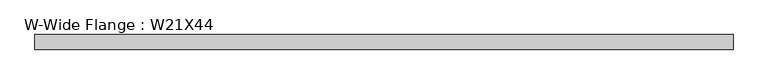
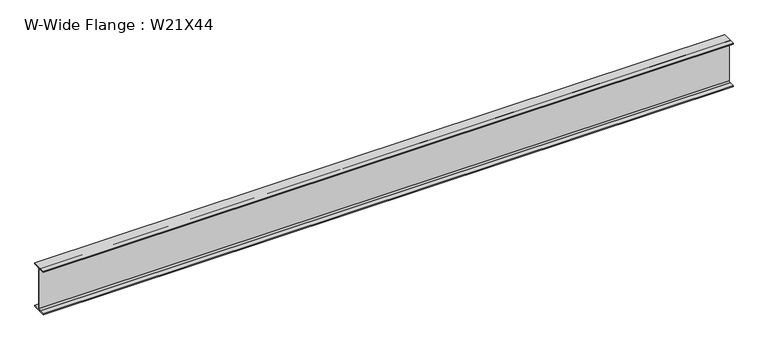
"""IFC4 building model written with IfcOpenShell, lengths in millimetres: beam geometry, W-Wide Flange : W21X44."""

from ifc_helpers import new_model, si_unit, point, frame, frame_2d, origin, place, context, project, spatial, polyline, circle_curve, trimmed, segment, composite_curve, outline, extrude, source, transform, mapped, element, save


def w_wide_flange_w21x44_bc81a974(model_context):
    return source(origin(), model_context, "Body", "SweptSolid", [
        extrude(outline(composite_curve([segment(polyline([(82.55, -251.46), (82.55, -262.89), (-82.55, -262.89), (-82.55, -251.46), (-21.59, -251.46)]), True, "CONTINUOUS"), segment(trimmed(circle_curve(frame_2d((-21.59, -234.315)), 17.145), [point((-21.59, -251.46))], [point((-4.445, -234.315))], True, "CARTESIAN"), True, "CONTINUOUS"), segment(polyline([(-4.445, -234.315), (-4.445, 234.315)]), True, "CONTINUOUS"), segment(trimmed(circle_curve(frame_2d((-21.59, 234.315)), 17.145), [point((-4.445, 234.315))], [point((-21.59, 251.46))], True, "CARTESIAN"), True, "CONTINUOUS"), segment(polyline([(-21.59, 251.46), (-82.55, 251.46), (-82.55, 262.89), (82.55, 262.89), (82.55, 251.46), (21.59, 251.46)]), True, "CONTINUOUS"), segment(trimmed(circle_curve(frame_2d((21.59, 234.315)), 17.145), [point((21.59, 251.46))], [point((4.445, 234.315))], True, "CARTESIAN"), True, "CONTINUOUS"), segment(polyline([(4.445, 234.315), (4.445, -234.315)]), True, "CONTINUOUS"), segment(trimmed(circle_curve(frame_2d((21.59, -234.315)), 17.145), [point((4.445, -234.315))], [point((21.59, -251.46))], True, "CARTESIAN"), True, "CONTINUOUS"), segment(polyline([(21.59, -251.46), (82.55, -251.46)]), True, "CONTINUOUS")], self_intersect=False)), frame((-3905.0724956, 0.0, 0.0), z_axis=(1.0, 0.0, 0.0), x_axis=(0.0, 1.0, 0.0)), (0.0, 0.0, 1.0), 7870.7248974),
    ])


if __name__ == "__main__":
    model = new_model("IFC4")
    model_context = context("Model", 3, world=origin())
    ifc_project = project(units=[si_unit("LENGTHUNIT", "METRE", prefix="MILLI")], contexts=[model_context])
    site = spatial("IfcSite", under=ifc_project)
    building = spatial("IfcBuilding", under=site)
    placement = place(None, origin())
    w_wide_flange_w21x44_shape = w_wide_flange_w21x44_bc81a974(model_context)
    element("IfcBeam", 1, ObjectType="W-Wide Flange : W21X44", at=placement, inside=building, context=model_context, shape_type="MappedRepresentation", body=[
        mapped(w_wide_flange_w21x44_shape, transform((0.0, 0.0, 0.0), x_axis=(1.0, 0.0, 0.0), y_axis=(0.0, 1.0, 0.0), z_axis=(0.0, 0.0, 1.0))),
    ])
    save(model, "model.ifc")
